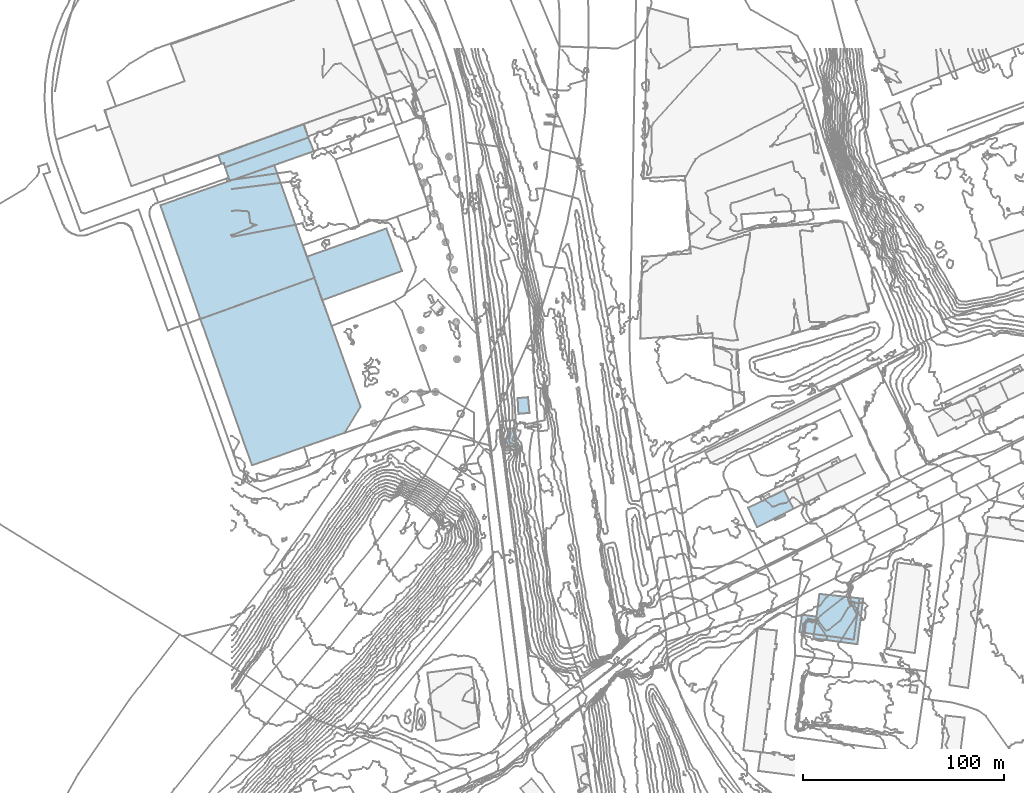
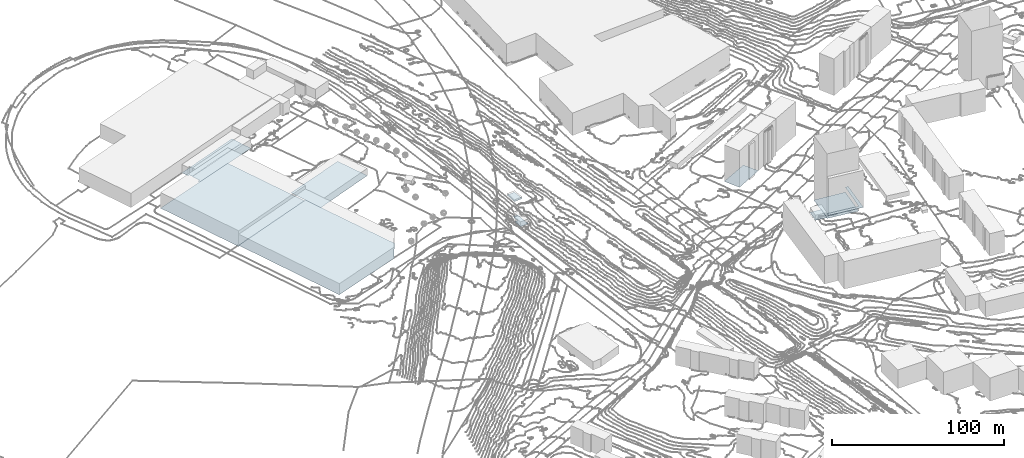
# Not in any storey, part 16 of 419: 11 footings.
"""IFC2X3 model written with IfcOpenShell, lengths in metres."""

from ifc_helpers import new_model, si_unit, frame, origin_with_axes, place, context, subcontext, project, faceted_brep, element, save


model = new_model("IFC2X3")

# Units and contexts
model_context = context("Model", 3, precision=1e-05, world=origin_with_axes())
body_context = subcontext(model_context, "Body", "Model", "MODEL_VIEW")
ifc_project = project(units=[si_unit("AREAUNIT", "SQUARE_METRE"), si_unit("LENGTHUNIT", "METRE")], contexts=[model_context])

# Footings
footing_1_placement = place(None, frame((37.2920204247, 929.2976909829, 21.1599998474), z_axis=(0.0, 0.0, 1.0), x_axis=(1.0, 0.0, 0.0)))
element("IfcFooting", 1, at=footing_1_placement, Name="Sol 0", PredefinedType="STRIP_FOOTING", context=body_context, shape_type="Brep", body=[
    faceted_brep([(7.5, -21.7000000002, 0.0), (0.0, 0.0, 0.0), (39.4, 14.0, 0.0), (47.1000000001, -7.1000000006, 0.0)], [[[0, 1, 2]], [[2, 3, 0]]]),
])
footing_2_placement = place(None, frame((141.7920204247, 858.9976909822, 25.4720998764), z_axis=(0.0, 0.0, 1.0), x_axis=(1.0, 0.0, 0.0)))
element("IfcFooting", 2, at=footing_2_placement, Name="Sol 0", PredefinedType="STRIP_FOOTING", context=body_context, shape_type="Brep", body=[
    faceted_brep([(5.9, -7.2999999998, 0.0), (0.4, -7.7999999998, 0.0), (0.0, 0.0, 0.0), (5.2000000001, 0.5, 0.0)], [[[0, 1, 2]], [[2, 3, 0]]]),
])
footing_3_placement = place(None, frame((-3.4079795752, 973.6976909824, 19.906999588), z_axis=(0.0, 0.0, 1.0), x_axis=(1.0, 0.0, 0.0)))
element("IfcFooting", 3, at=footing_3_placement, Name="Sol 0", PredefinedType="STRIP_FOOTING", context=body_context, shape_type="Brep", body=[
    faceted_brep([(41.3, 14.7999999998, 0.0), (44.0, 8.0, 0.0), (1.2, -7.2000000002, 0.0), (1.7, -5.2000000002, 0.0), (0.0, 0.0, 0.0), (0.6, -5.5999999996, 0.0)], [[[0, 1, 2]], [[3, 4, 0]], [[2, 5, 3]], [[3, 0, 2]]]),
])
footing_4_placement = place(None, frame((-6.8079795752, 979.7976909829, 20.1100006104), z_axis=(0.0, 0.0, 1.0), x_axis=(1.0, 0.0, 0.0)))
element("IfcFooting", 4, at=footing_4_placement, Name="Sol 0", PredefinedType="STRIP_FOOTING", context=body_context, shape_type="Brep", body=[
    faceted_brep([(42.4, 15.3999999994, 0.0), (44.7000000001, 8.6999999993, 0.0), (3.4, -6.1000000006, 0.0), (1.5, -4.4000000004, 0.0), (0.0, 0.0, 0.0), (2.7000000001, -4.0, 0.0)], [[[0, 1, 2]], [[3, 4, 0]], [[0, 2, 5]], [[5, 3, 0]]]),
])
footing_5_placement = place(None, frame((281.6920204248, 742.7976909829, 29.0879993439), z_axis=(0.0, 0.0, 1.0), x_axis=(1.0, 0.0, 0.0)))
element("IfcFooting", 5, at=footing_5_placement, Name="Sol 0", PredefinedType="STRIP_FOOTING", context=body_context, shape_type="Brep", body=[
    faceted_brep([(0.0, 0.0, 0.0), (1.3, 8.5999999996, 0.0), (8.5, 7.6999999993, 0.0), (7.2000000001, -1.0, 0.0)], [[[0, 1, 2]], [[2, 3, 0]]]),
])
footing_6_placement = place(None, frame((-15.7079795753, 898.3976909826, 21.1100006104), z_axis=(0.0, 0.0, 1.0), x_axis=(1.0, 0.0, 0.0)))
element("IfcFooting", 6, at=footing_6_placement, Name="Sol 0", PredefinedType="STRIP_FOOTING", context=body_context, shape_type="Brep", body=[
    faceted_brep([(0.0, 0.0, 0.0), (56.6000000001, 20.4000000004, 0.0), (79.5, -43.5, 0.0), (71.5, -56.5999999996, 0.0), (25.6000000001, -72.7000000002, 0.0)], [[[0, 1, 2]], [[3, 4, 0]], [[0, 2, 3]]]),
])
footing_7_placement = place(None, frame((-35.6079795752, 954.7976909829, 20.2473999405), z_axis=(0.0, 0.0, 1.0), x_axis=(1.0, 0.0, 0.0)))
element("IfcFooting", 7, at=footing_7_placement, Name="Sol 0", PredefinedType="STRIP_FOOTING", context=body_context, shape_type="Brep", body=[
    faceted_brep([(19.8999999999, -56.4000000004, 0.0), (0.0, 0.0, 0.0), (56.6, 19.8999999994, 0.0), (76.5, -36.0, 0.0)], [[[0, 1, 2]], [[2, 3, 0]]]),
])
footing_8_placement = place(None, frame((135.2920204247, 838.7976909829, 21.090999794), z_axis=(0.0, 0.0, 1.0), x_axis=(1.0, 0.0, 0.0)))
element("IfcFooting", 8, at=footing_8_placement, Name="Sol 0", PredefinedType="STRIP_FOOTING", context=body_context, shape_type="Brep", body=[
    faceted_brep([(5.7000000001, -5.5, 0.0), (0.5, -5.9000000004, 0.0), (0.0, 0.0, 0.0), (1.8, 5.0, 0.0), (4.9, 5.1999999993, 0.0), (2.1000000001, 0.1999999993, 0.0)], [[[0, 1, 2]], [[3, 4, 0]], [[0, 2, 5]], [[5, 3, 0]]]),
])
footing_9_placement = place(None, frame((256.1920204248, 804.5976909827, 28.2029998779), z_axis=(0.0, 0.0, 1.0), x_axis=(1.0, 0.0, 0.0)))
element("IfcFooting", 9, at=footing_9_placement, Name="Sol 0", PredefinedType="STRIP_FOOTING", context=body_context, shape_type="Brep", body=[
    faceted_brep([(0.0, 0.0, 0.0), (17.9, 8.7999999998, 0.0), (22.6, -0.5, 0.0), (4.6, -9.7000000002, 0.0)], [[[0, 1, 2]], [[2, 3, 0]]]),
])
footing_10_placement = place(None, frame((288.6920204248, 739.6976909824, 31.9331994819), z_axis=(0.0, 0.0, 1.0), x_axis=(1.0, 0.0, 0.0)))
element("IfcFooting", 10, at=footing_10_placement, Name="Sol 0", PredefinedType="STRIP_FOOTING", context=body_context, shape_type="Brep", body=[
    faceted_brep([(20.0, -0.5999999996, 0.0), (22.8, 19.9000000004, 0.0), (24.7000000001, 19.7999999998, 0.0), (0.0, 0.0, 0.0), (0.2000000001, 2.1000000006, 0.0), (21.8, -2.8999999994, 0.0)], [[[0, 1, 2]], [[3, 4, 0]], [[0, 2, 5]], [[5, 3, 0]]]),
])
footing_11_placement = place(None, frame((288.8920204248, 741.7976909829, 28.4980007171), z_axis=(0.0, 0.0, 1.0), x_axis=(1.0, 0.0, 0.0)))
element("IfcFooting", 11, at=footing_11_placement, Name="Sol 0", PredefinedType="STRIP_FOOTING", context=body_context, shape_type="Brep", body=[
    faceted_brep([(19.7999999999, -2.7000000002, 0.0), (0.0, 0.0, 0.0), (1.2999999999, 8.6999999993, 0.0), (2.7, 20.0, 0.0), (22.6, 17.7999999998, 0.0)], [[[0, 1, 2]], [[3, 4, 0]], [[0, 2, 3]]]),
])

save(model, "model.ifc")
